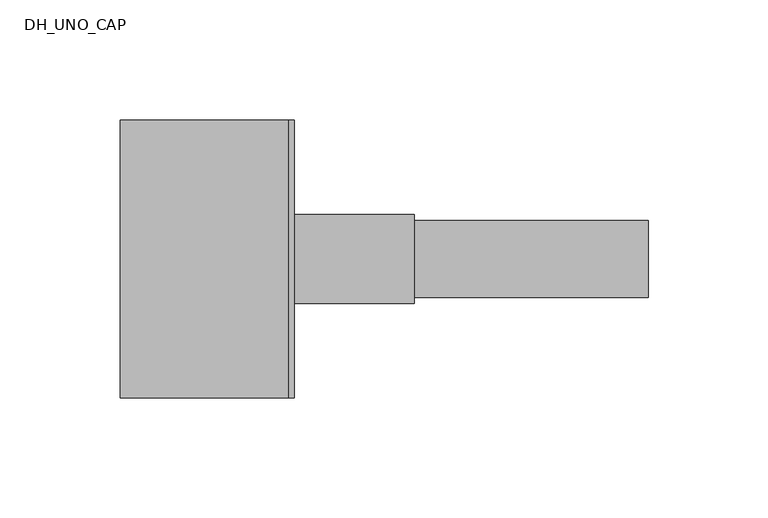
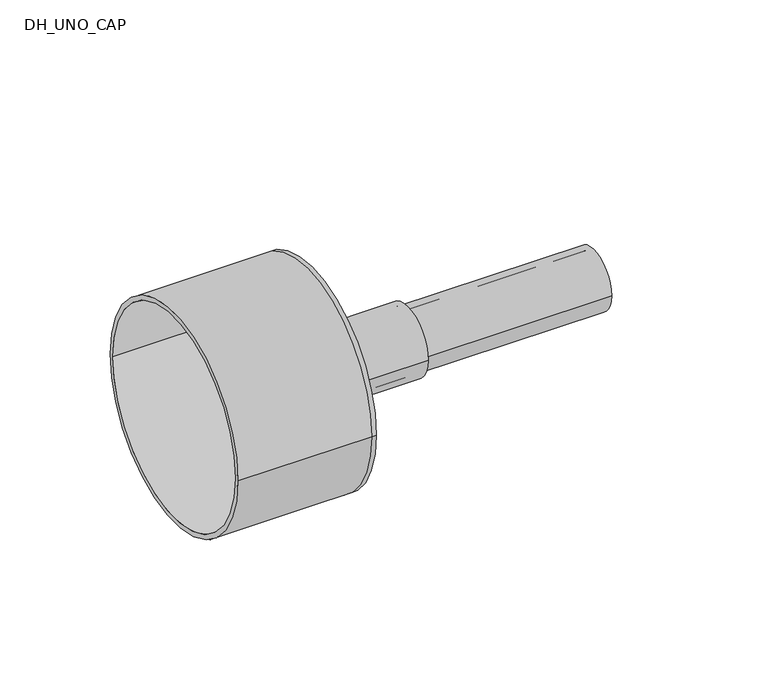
"""IFC4 building model written with IfcOpenShell, lengths in millimetres: pipe fitting geometry, DH_UNO_CAP : RAUTHERMEX UNO ++ 11 Heating - Rubber Cap."""

import ifcopenshell
import ifcopenshell.guid

model = None  # the IFC model being written
_history = None  # IfcOwnerHistory: only IFC2X3 demands one
_inside = {}  # id of a spatial element -> (the spatial element, [elements in it])
_under = {}  # id of a project, library or spatial element -> (it, [spatial elements below it])
_declared = {}  # id of a project -> (the project, [libraries it declares])
_typed = {}  # id of a type object -> (the type object, [elements of that type])
_made_of = {}  # id of a material, layer set ... -> (it, [elements and type objects made of it])


def new_model(schema):
    """Start an empty IFC model of exactly this schema.

    Asked for "IFC4X3", IfcOpenShell would pick the latest addendum, in which some entities
    have other attributes; the version numbers below select the first issue.
    IFC2X3 requires an IfcOwnerHistory on every rooted entity: one is made here for all.
    """
    global model, _history
    if schema == "IFC4X3":
        model = ifcopenshell.file(schema_version=(4, 3, 0, 0))
    else:
        model = ifcopenshell.file(schema=schema)
    _inside.clear()
    _under.clear()
    _declared.clear()
    _typed.clear()
    _made_of.clear()
    _history = None
    if model.schema == "IFC2X3":
        org = make("IfcOrganization", Name="unknown")
        user = make(
            "IfcPersonAndOrganization",
            ThePerson=make("IfcPerson", FamilyName="unknown"),
            TheOrganization=org,
        )
        app = make(
            "IfcApplication",
            ApplicationDeveloper=org,
            Version="unknown",
            ApplicationFullName="unknown",
            ApplicationIdentifier="unknown",
        )
        _history = make(
            "IfcOwnerHistory",
            OwningUser=user,
            OwningApplication=app,
            ChangeAction="ADDED",
            CreationDate=0,
        )
    return model


def make(cls, **values):
    """One entity of the class cls with the attributes given. An attribute that is None is left unset."""
    return model.create_entity(
        cls, **{name: value for name, value in values.items() if value is not None}
    )


def rooted(cls, **values):
    """An entity with a GlobalId (a new one), such as an element, a storey or a relation."""
    return make(cls, GlobalId=ifcopenshell.guid.new(), OwnerHistory=_history, **values)


def si_unit(unit_type, name, prefix=None):
    """IfcSIUnit, for example si_unit("LENGTHUNIT", "METRE", prefix="MILLI")."""
    return make("IfcSIUnit", UnitType=unit_type, Prefix=prefix, Name=name)


def assignment(units):
    """IfcUnitAssignment: the units of a project."""
    return None if units is None else make("IfcUnitAssignment", Units=units)


def point(xyz):
    """IfcCartesianPoint."""
    return None if xyz is None else make("IfcCartesianPoint", Coordinates=xyz)


def direction(xyz):
    """IfcDirection."""
    return None if xyz is None else make("IfcDirection", DirectionRatios=xyz)


def frame(location, z_axis=None, x_axis=None):
    """IfcAxis2Placement3D, a coordinate frame: its origin and axes. An axis left out is left unset."""
    return make(
        "IfcAxis2Placement3D",
        Location=point(location),
        Axis=direction(z_axis),
        RefDirection=direction(x_axis),
    )


def frame_2d(location, x_axis=None):
    """IfcAxis2Placement2D, a coordinate frame in the plane: its origin and x axis."""
    return make(
        "IfcAxis2Placement2D", Location=point(location), RefDirection=direction(x_axis)
    )


def origin():
    """The frame at (0, 0, 0) with its axes left unset."""
    return frame((0.0, 0.0, 0.0))


def origin_2d():
    """The frame at (0, 0) in the plane with its x axis left unset."""
    return frame_2d((0.0, 0.0))


def place(relative_to, where):
    """IfcLocalPlacement: puts the frame where relative to a parent placement (None: the world)."""
    return make(
        "IfcLocalPlacement", PlacementRelTo=relative_to, RelativePlacement=where
    )


def context(
    kind, dimensions, precision=None, world=None, true_north=None, identifier=None
):
    """IfcGeometricRepresentationContext, for example the 3D "Model" context."""
    return make(
        "IfcGeometricRepresentationContext",
        ContextIdentifier=identifier,
        ContextType=kind,
        CoordinateSpaceDimension=dimensions,
        Precision=precision,
        WorldCoordinateSystem=world,
        TrueNorth=true_north,
    )


def project(units=None, contexts=None):
    """IfcProject with its units and contexts."""
    return rooted(
        "IfcProject",
        Name="project",
        RepresentationContexts=contexts,
        UnitsInContext=assignment(units),
    )


def spatial(cls, under=None, at=None, **own):
    """A site, building, storey or space (cls), placed at a placement, below another one or the project."""
    s = rooted(cls, ObjectPlacement=at, **own)
    if under is not None:
        _under.setdefault(under.id(), (under, []))[1].append(s)
    return s


def polyline(points):
    """IfcPolyline through the points."""
    return make("IfcPolyline", Points=[point(p) for p in points])


def circle_curve(where, radius):
    """IfcCircle in the frame where."""
    return make("IfcCircle", Position=where, Radius=radius)


def trimmed(basis, trim1, trim2, sense, master):
    """IfcTrimmedCurve: the piece of a basis curve between two trims."""
    return make(
        "IfcTrimmedCurve",
        BasisCurve=basis,
        Trim1=trim1,
        Trim2=trim2,
        SenseAgreement=sense,
        MasterRepresentation=master,
    )


def segment(curve, same_sense, transition):
    """IfcCompositeCurveSegment."""
    return make(
        "IfcCompositeCurveSegment",
        Transition=transition,
        SameSense=same_sense,
        ParentCurve=curve,
    )


def composite_curve(segments, self_intersect=None):
    """IfcCompositeCurve: segments joined end to end."""
    return make("IfcCompositeCurve", Segments=segments, SelfIntersect=self_intersect)


def outline(outer, holes=None, kind="AREA"):
    """IfcArbitraryClosedProfileDef: a profile drawn as a closed curve; with holes, ...WithVoids."""
    if holes is None:
        return make("IfcArbitraryClosedProfileDef", ProfileType=kind, OuterCurve=outer)
    return make(
        "IfcArbitraryProfileDefWithVoids",
        ProfileType=kind,
        OuterCurve=outer,
        InnerCurves=holes,
    )


def extrude(swept, where, along, depth):
    """IfcExtrudedAreaSolid: the profile swept, set in the frame where, extruded along a direction by depth."""
    return make(
        "IfcExtrudedAreaSolid",
        SweptArea=swept,
        Position=where,
        ExtrudedDirection=direction(along),
        Depth=depth,
    )


def shape(context_of_items, identifier, shape_type, items):
    """IfcShapeRepresentation: the items that make up one representation, for example the "Body"."""
    return make(
        "IfcShapeRepresentation",
        ContextOfItems=context_of_items,
        RepresentationIdentifier=identifier,
        RepresentationType=shape_type,
        Items=items,
    )


def source(mapping_origin, context_of_items, identifier, shape_type, items):
    """IfcRepresentationMap: a shape defined once, which mapped items show again and again."""
    return make(
        "IfcRepresentationMap",
        MappingOrigin=mapping_origin,
        MappedRepresentation=shape(context_of_items, identifier, shape_type, items),
    )


def transform(
    local_origin,
    x_axis=None,
    y_axis=None,
    z_axis=None,
    scale=None,
    scale2=None,
    scale3=None,
    uniform=True,
):
    """IfcCartesianTransformationOperator3D, or its non-uniform kind. x_axis, y_axis, z_axis: its Axis1, 2, 3."""
    if uniform:
        return make(
            "IfcCartesianTransformationOperator3D",
            Axis1=direction(x_axis),
            Axis2=direction(y_axis),
            LocalOrigin=point(local_origin),
            Scale=scale,
            Axis3=direction(z_axis),
        )
    return make(
        "IfcCartesianTransformationOperator3DnonUniform",
        Axis1=direction(x_axis),
        Axis2=direction(y_axis),
        LocalOrigin=point(local_origin),
        Scale=scale,
        Axis3=direction(z_axis),
        Scale2=scale2,
        Scale3=scale3,
    )


def mapped(mapping_source, mapping_target):
    """IfcMappedItem: shows the shape of a source again, moved by a transform."""
    return make(
        "IfcMappedItem", MappingSource=mapping_source, MappingTarget=mapping_target
    )


def made_of(thing, what):
    """Note that an element or type object is made of a material, layer set ...; save() writes the relation."""
    if what is not None:
        _made_of.setdefault(what.id(), (what, []))[1].append(thing)
    return thing


def element(
    cls,
    number,
    at=None,
    inside=None,
    cuts=None,
    type_object=None,
    material=None,
    context=None,
    identifier="Body",
    shape_type=None,
    held_by="IfcProductDefinitionShape",
    body=None,
    shapes=None,
    **own,
):
    """One element of the class cls, such as IfcWall. Its Tag is "e" and its number.

    at: its placement. inside: the storey or other place that contains it. cuts: it is an
    opening in that element (IfcRelVoidsElement). A single representation is given by context,
    identifier, shape_type and body (its items); several are given by shapes. held_by: the class
    of the entity that holds the representations. save() writes the other relations.
    """
    e = rooted(cls, Tag="e%d" % number, ObjectPlacement=at, **own)
    if body is not None:
        shapes = [shape(context, identifier, shape_type, body)]
    if shapes is not None:
        e.Representation = make(held_by, Representations=shapes)
    if inside is not None:
        _inside.setdefault(inside.id(), (inside, []))[1].append(e)
    if cuts is not None:
        rooted(
            "IfcRelVoidsElement", RelatingBuildingElement=cuts, RelatedOpeningElement=e
        )
    if type_object is not None:
        _typed.setdefault(type_object.id(), (type_object, []))[1].append(e)
    return made_of(e, material)


def aggregate(whole, parts):
    """IfcRelAggregates: a whole, such as a stair, and the parts it consists of."""
    return rooted("IfcRelAggregates", RelatingObject=whole, RelatedObjects=parts)


def save(model, path):
    """Write the relations noted so far, then the file.

    IfcRelAggregates (storeys below a building ...), IfcRelContainedInSpatialStructure (elements
    in a storey), IfcRelDefinesByType, IfcRelAssociatesMaterial and IfcRelDeclares: one each for
    every whole, place, type object, material and project.
    """
    for whole, parts in _under.values():
        aggregate(whole, parts)
    for where, things in _inside.values():
        rooted(
            "IfcRelContainedInSpatialStructure",
            RelatedElements=things,
            RelatingStructure=where,
        )
    for kind, things in _typed.values():
        rooted("IfcRelDefinesByType", RelatedObjects=things, RelatingType=kind)
    for what, things in _made_of.values():
        rooted("IfcRelAssociatesMaterial", RelatedObjects=things, RelatingMaterial=what)
    for by, libraries in _declared.values():
        rooted("IfcRelDeclares", RelatingContext=by, RelatedDefinitions=libraries)
    model.write(path)


def plane_surface(at):
    """IfcPlane: the flat surface through the origin of the frame at, square to its z axis."""
    return make("IfcPlane", Position=at)


def cylinder_surface(at, radius):
    """IfcCylindricalSurface: all points at the distance radius from the z axis of the frame at."""
    return make("IfcCylindricalSurface", Position=at, Radius=radius)


def revolved_surface(curve, axis_point, axis_direction):
    """IfcSurfaceOfRevolution: the curve turned about the line through axis_point along axis_direction."""
    return make(
        "IfcSurfaceOfRevolution",
        SweptCurve=make("IfcArbitraryOpenProfileDef", ProfileType="CURVE", Curve=curve),
        AxisPosition=make("IfcAxis1Placement", Location=point(axis_point), Axis=direction(axis_direction)),
    )


def advanced_brep(points, edges, surfaces, faces):
    """IfcAdvancedBrep: a solid bounded by faces that lie on surfaces and meet in shared edges.

    An edge is (start, end): straight between two places in points (the first is 0);
    or (start, end, curve); or (start, end, curve, False) where it runs against its curve.
    A face is (place in surfaces, loops), or (place, loops, False) where it looks against
    its surface's normal. A loop lists edges by number (the first is 1), with a minus sign
    where the edge is run from its end to its start. The first loop is the outer one.
    """
    corners = [point(p) for p in points]
    vertices = [make("IfcVertexPoint", VertexGeometry=c) for c in corners]
    made = []
    for start, end, *more in edges:
        made.append(
            make(
                "IfcEdgeCurve",
                EdgeStart=vertices[start],
                EdgeEnd=vertices[end],
                EdgeGeometry=more[0] if more else make("IfcPolyline", Points=[corners[start], corners[end]]),
                SameSense=more[1] if len(more) > 1 else True,
            )
        )
    hull = []
    for where, loops, *sense in faces:
        bounds = []
        for j, loop in enumerate(loops):
            ring = [make("IfcOrientedEdge", EdgeElement=made[abs(k) - 1], Orientation=k > 0) for k in loop]
            bounds.append(
                make(
                    "IfcFaceOuterBound" if j == 0 else "IfcFaceBound",
                    Bound=make("IfcEdgeLoop", EdgeList=ring),
                    Orientation=True,
                )
            )
        hull.append(make("IfcAdvancedFace", Bounds=bounds, FaceSurface=surfaces[where], SameSense=sense[0] if sense else True))
    return make("IfcAdvancedBrep", Outer=make("IfcClosedShell", CfsFaces=hull))


def dh_uno_cap_d4246d68(model_context):
    return source(origin(), model_context, "Body", "SolidModel", [
        extrude(outline(composite_curve([segment(trimmed(circle_curve(origin_2d(), 16.0), [point((-16.0, 0.0))], [point((16.0, 0.0))], False, "CARTESIAN"), True, "CONTINUOUS"), segment(trimmed(circle_curve(origin_2d(), 16.0), [point((16.0, 0.0))], [point((-16.0, 0.0))], False, "CARTESIAN"), True, "CONTINUOUS")], self_intersect=False), holes=[composite_curve([segment(trimmed(circle_curve(origin_2d(), 13.1), [point((-13.1, 0.0))], [point((13.1, 0.0))], True, "CARTESIAN"), True, "CONTINUOUS"), segment(trimmed(circle_curve(origin_2d(), 13.1), [point((13.1, 0.0))], [point((-13.1, 0.0))], True, "CARTESIAN"), True, "CONTINUOUS")], self_intersect=False)]), frame((0.0, 0.0, 0.0), z_axis=(1.0, 0.0, 0.0), x_axis=(0.0, 1.0, 0.0)), (0.0, 0.0, 1.0), 150.0),
        advanced_brep(
        [(-70.0, -58.0, 0.0), (-70.0, 58.0, 0.0), (-70.0, -55.5, 0.0), (-70.0, 55.5, 0.0), (0.0, -55.5, 0.0), (0.0, 55.5, 0.0), (0.0, -58.0, 0.0), (0.0, 58.0, 0.0), (0.0, 16.0, 0.0), (0.0, -16.0, 0.0), (2.5, -58.0, 0.0), (2.5, 58.0, 0.0), (2.5, -16.0, 0.0), (2.5, 16.0, 0.0)],
        [
            (0, 1, circle_curve(frame((-70.0, 0.0, 0.0), z_axis=(-1.0, 0.0, 0.0), x_axis=(0.0, 1.0, 0.0)), 58.0)),
            (1, 0, circle_curve(frame((-70.0, 0.0, 0.0), z_axis=(-1.0, 0.0, 0.0), x_axis=(0.0, 1.0, 0.0)), 58.0)),
            (2, 3, circle_curve(frame((-70.0, 0.0, 0.0), z_axis=(1.0, 0.0, 0.0), x_axis=(0.0, 1.0, 0.0)), 55.5)),
            (3, 2, circle_curve(frame((-70.0, 0.0, 0.0), z_axis=(1.0, 0.0, 0.0), x_axis=(0.0, 1.0, 0.0)), 55.5)),
            (2, 4),
            (4, 5, circle_curve(frame((0.0, 0.0, 0.0), z_axis=(1.0, 0.0, 0.0), x_axis=(0.0, 1.0, 0.0)), 55.5)),
            (5, 3),
            (5, 4, circle_curve(frame((0.0, 0.0, 0.0), z_axis=(1.0, 0.0, 0.0), x_axis=(0.0, 1.0, 0.0)), 55.5)),
            (0, 6),
            (6, 7, circle_curve(frame((0.0, 0.0, 0.0), z_axis=(-1.0, 0.0, 0.0), x_axis=(0.0, 1.0, 0.0)), 58.0)),
            (7, 1),
            (7, 6, circle_curve(frame((0.0, 0.0, 0.0), z_axis=(-1.0, 0.0, 0.0), x_axis=(0.0, 1.0, 0.0)), 58.0)),
            (8, 9, circle_curve(frame((0.0, 0.0, 0.0), z_axis=(1.0, 0.0, 0.0), x_axis=(0.0, 1.0, 0.0)), 16.0)),
            (9, 8, circle_curve(frame((0.0, 0.0, 0.0), z_axis=(1.0, 0.0, 0.0), x_axis=(0.0, 1.0, 0.0)), 16.0)),
            (10, 11, circle_curve(frame((2.5, 0.0, 0.0), z_axis=(1.0, 0.0, 0.0), x_axis=(0.0, 1.0, 0.0)), 58.0)),
            (11, 10, circle_curve(frame((2.5, 0.0, 0.0), z_axis=(1.0, 0.0, 0.0), x_axis=(0.0, 1.0, 0.0)), 58.0)),
            (12, 13, circle_curve(frame((2.5, 0.0, 0.0), z_axis=(-1.0, 0.0, 0.0), x_axis=(0.0, 1.0, 0.0)), 16.0)),
            (13, 12, circle_curve(frame((2.5, 0.0, 0.0), z_axis=(-1.0, 0.0, 0.0), x_axis=(0.0, 1.0, 0.0)), 16.0)),
            (11, 7),
            (6, 10),
            (8, 13),
            (12, 9),
        ],
        [
            plane_surface(frame((-70.0, 0.0, 0.0), z_axis=(-1.0, 0.0, 0.0), x_axis=(0.0, 0.0, 1.0))),
            revolved_surface(polyline([(0.0, 55.5, 0.0), (-70.0, 55.5, 0.0)]), (-70.0, 0.0, 0.0), (1.0, 0.0, 0.0)),
            cylinder_surface(frame((-70.0, 0.0, 0.0), z_axis=(-1.0, 0.0, 0.0), x_axis=(0.0, 1.0, 0.0)), 58.0),
            plane_surface(frame((0.0, 0.0, 0.0), z_axis=(-1.0, 0.0, 0.0), x_axis=(0.0, 0.0, 1.0))),
            plane_surface(frame((2.5, 0.0, 0.0), z_axis=(1.0, 0.0, 0.0), x_axis=(0.0, 0.0, 1.0))),
            cylinder_surface(frame((0.0, 0.0, 0.0), z_axis=(-1.0, 0.0, 0.0), x_axis=(0.0, 1.0, 0.0)), 58.0),
            revolved_surface(polyline([(0.0, 16.0, 0.0), (2.5, 16.0, 0.0)]), (0.0, 0.0, 0.0), (-1.0, 0.0, 0.0)),
        ],
        [
            (0, [[1, 2], [3, 4]]),
            (1, [[-3, 5, 6, 7]]),
            (1, [[-4, -7, 8, -5]]),
            (2, [[-1, 9, 10, 11]]),
            (2, [[-2, -11, 12, -9]]),
            (3, [[-6, -8], [13, 14]]),
            (4, [[15, 16], [17, 18]]),
            (5, [[-16, 19, -10, 20]]),
            (5, [[-15, -20, -12, -19]]),
            (6, [[21, -17, 22, -13]]),
            (6, [[-21, -14, -22, -18]]),
        ],
    ),
        extrude(outline(composite_curve([segment(trimmed(circle_curve(origin_2d(), 18.5), [point((-18.5, 0.0))], [point((18.5, 0.0))], False, "CARTESIAN"), True, "CONTINUOUS"), segment(trimmed(circle_curve(origin_2d(), 18.5), [point((18.5, 0.0))], [point((-18.5, 0.0))], False, "CARTESIAN"), True, "CONTINUOUS")], self_intersect=False), holes=[composite_curve([segment(trimmed(circle_curve(origin_2d(), 16.0), [point((-16.0, 0.0))], [point((16.0, 0.0))], True, "CARTESIAN"), True, "CONTINUOUS"), segment(trimmed(circle_curve(origin_2d(), 16.0), [point((16.0, 0.0))], [point((-16.0, 0.0))], True, "CARTESIAN"), True, "CONTINUOUS")], self_intersect=False)]), frame((2.5, 0.0, 0.0), z_axis=(1.0, 0.0, 0.0), x_axis=(0.0, 1.0, 0.0)), (0.0, 0.0, 1.0), 50.0),
    ])


if __name__ == "__main__":
    model = new_model("IFC4")
    model_context = context("Model", 3, world=origin())
    ifc_project = project(units=[si_unit("LENGTHUNIT", "METRE", prefix="MILLI")], contexts=[model_context])
    site = spatial("IfcSite", under=ifc_project)
    building = spatial("IfcBuilding", under=site)
    placement = place(None, origin())
    dh_uno_cap_shape = dh_uno_cap_d4246d68(model_context)
    element("IfcPipeFitting", 1, ObjectType="DH_UNO_CAP : RAUTHERMEX UNO ++ 11 Heating - Rubber Cap", at=placement, inside=building, context=model_context, shape_type="MappedRepresentation", body=[
        mapped(dh_uno_cap_shape, transform((0.0, 0.0, 0.0), x_axis=(1.0, 0.0, 0.0), y_axis=(0.0, 1.0, 0.0), z_axis=(0.0, 0.0, 1.0))),
    ])
    save(model, "model.ifc")
